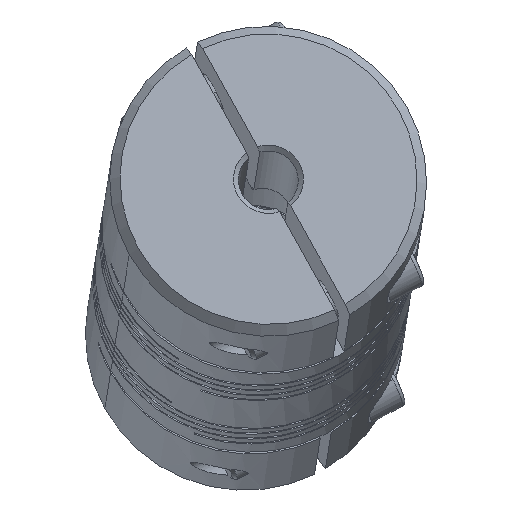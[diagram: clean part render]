
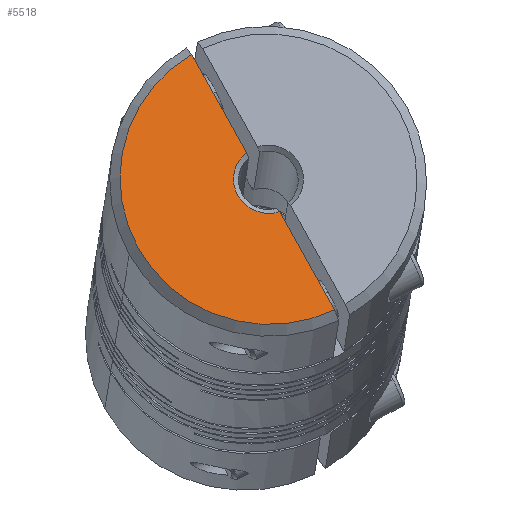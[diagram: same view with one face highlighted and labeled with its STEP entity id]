
A CAD part, top view. The second image highlights one B-rep face of the part: STEP entity #5518.
In plain terms, the highlighted planar face has unit normal (0.033, 0.209, 0.977).
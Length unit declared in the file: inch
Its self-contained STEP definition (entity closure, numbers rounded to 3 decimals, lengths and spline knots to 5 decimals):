
#635=DIRECTION('',(0.481,-0.861,0.168));
#636=VECTOR('',#635,0.89906);
#637=CARTESIAN_POINT('',(-0.60987,1.6026,2.68245));
#638=LINE('',#637,#636);
#656=CARTESIAN_POINT('',(-0.60987,1.6026,2.68245));
#663=CARTESIAN_POINT('',(-0.00429,0.61825,
2.87267));
#664=DIRECTION('',(-0.033,-0.209,-0.977));
#665=DIRECTION('',(0.316,-0.93,0.188));
#666=AXIS2_PLACEMENT_3D('',#663,#664,#665);
#668=CARTESIAN_POINT('',(-0.00429,0.61825,
2.87268));
#669=DIRECTION('',(0.033,0.209,0.977));
#670=DIRECTION('',(-0.517,0.84,-0.162));
#671=AXIS2_PLACEMENT_3D('',#668,#669,#670);
#1290=DIRECTION('',(0.481,-0.861,0.168));
#1291=VECTOR('',#1290,0.89906);
#1292=CARTESIAN_POINT('',(0.08292,0.36203,
2.92459));
#1293=LINE('',#1292,#1291);
#4538=VERTEX_POINT('',#656);
#4578=CARTESIAN_POINT('',(-0.17774,0.82879,
2.83348));
#4579=VERTEX_POINT('',#4578);
#4598=CARTESIAN_POINT('',(0.51504,-0.41177,
3.07564));
#4599=VERTEX_POINT('',#4598);
#4641=CARTESIAN_POINT('',(0.08292,0.36203,
2.92459));
#4642=VERTEX_POINT('',#4641);
#5505=CARTESIAN_POINT('',(-0.53903,0.33504,
2.95161));
#5506=DIRECTION('',(0.033,0.209,0.977));
#5507=DIRECTION('',(0.876,0.464,-0.129));
#5508=AXIS2_PLACEMENT_3D('',#5505,#5506,#5507);
#5509=PLANE('',#5508);
#5511=ORIENTED_EDGE('',*,*,#5510,.F.);
#5513=ORIENTED_EDGE('',*,*,#5512,.T.);
#5514=ORIENTED_EDGE('',*,*,#5486,.F.);
#5515=ORIENTED_EDGE('',*,*,#5463,.T.);
#5516=EDGE_LOOP('',(#5511,#5513,#5514,#5515));
#5517=FACE_OUTER_BOUND('',#5516,.F.);
#667=CIRCLE('',#666,0.27559);
#672=CIRCLE('',#671,1.17126);
#5463=EDGE_CURVE('',#4538,#4579,#638,.T.);
#5486=EDGE_CURVE('',#4538,#4599,#672,.T.);
#5510=EDGE_CURVE('',#4642,#4579,#667,.T.);
#5512=EDGE_CURVE('',#4642,#4599,#1293,.T.);
#5518=ADVANCED_FACE('',(#5517),#5509,.T.);
